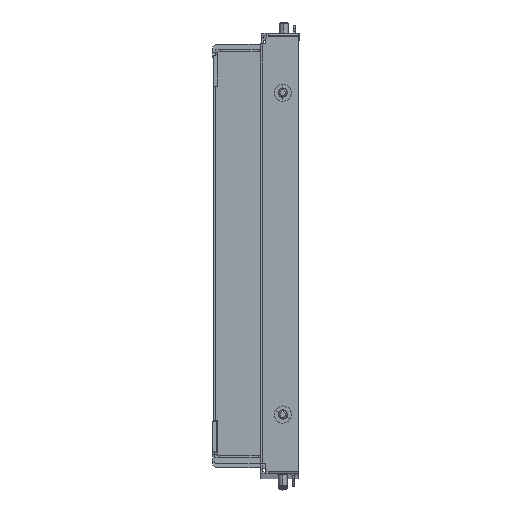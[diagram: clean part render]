
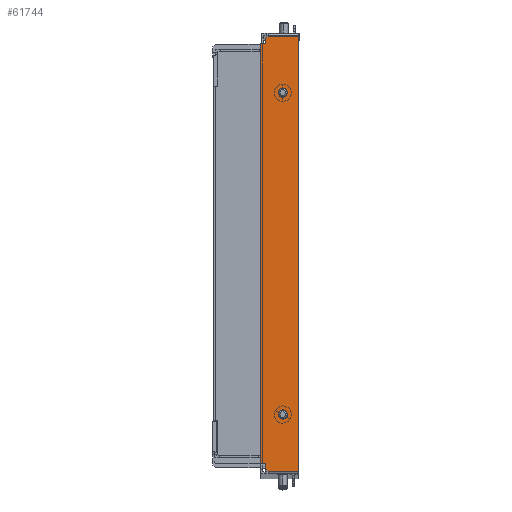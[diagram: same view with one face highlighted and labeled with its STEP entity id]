
A CAD part, top view. The second image highlights one B-rep face of the part: STEP entity #61744.
In plain terms, the highlighted planar face has unit normal (0, 0, 1).
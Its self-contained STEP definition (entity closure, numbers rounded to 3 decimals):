
#185 = EDGE_CURVE ( 'NONE', #23126, #48316, #44675, .T. ) ;
#637 = VECTOR ( 'NONE', #7521, 1000. ) ;
#1264 = VERTEX_POINT ( 'NONE', #19200 ) ;
#1365 = CARTESIAN_POINT ( 'NONE',  ( 28.807, -18.622, 2891.5 ) ) ;
#1578 = ORIENTED_EDGE ( 'NONE', *, *, #4382, .T. ) ;
#1788 = DIRECTION ( 'NONE',  ( -1., 0., 0. ) ) ;
#2186 = LINE ( 'NONE', #17424, #30979 ) ;
#2496 = VERTEX_POINT ( 'NONE', #66024 ) ;
#3572 = ORIENTED_EDGE ( 'NONE', *, *, #22690, .T. ) ;
#4382 = EDGE_CURVE ( 'NONE', #51287, #1264, #2186, .T. ) ;
#6065 = VECTOR ( 'NONE', #66566, 1000. ) ;
#6268 = VERTEX_POINT ( 'NONE', #1365 ) ;
#6734 = LINE ( 'NONE', #58643, #59887 ) ;
#6744 = DIRECTION ( 'NONE',  ( 0., -1., 0. ) ) ;
#6807 = CARTESIAN_POINT ( 'NONE',  ( 28.807, 285.378, 2891.5 ) ) ;
#7059 = AXIS2_PLACEMENT_3D ( 'NONE', #60982, #33676, #65151 ) ;
#7521 = DIRECTION ( 'NONE',  ( -1., 0., 0. ) ) ;
#8308 = VECTOR ( 'NONE', #21916, 1000. ) ;
#9734 = CARTESIAN_POINT ( 'NONE',  ( 7.507, 285.378, 2891.5 ) ) ;
#9918 = EDGE_CURVE ( 'NONE', #20998, #2496, #38656, .T. ) ;
#10076 = CARTESIAN_POINT ( 'NONE',  ( 5.507, 283.378, 2891.5 ) ) ;
#10864 = VERTEX_POINT ( 'NONE', #10076 ) ;
#13623 = CARTESIAN_POINT ( 'NONE',  ( 5.507, 285.378, 2891.5 ) ) ;
#14081 = CARTESIAN_POINT ( 'NONE',  ( 17.807, 245.878, 2891.5 ) ) ;
#14241 = DIRECTION ( 'NONE',  ( 0., 0., -1. ) ) ;
#14574 = ORIENTED_EDGE ( 'NONE', *, *, #54685, .F. ) ;
#15247 = ORIENTED_EDGE ( 'NONE', *, *, #16532, .T. ) ;
#16532 = EDGE_CURVE ( 'NONE', #2496, #20998, #54827, .T. ) ;
#16871 = EDGE_CURVE ( 'NONE', #59901, #1264, #21458, .T. ) ;
#17415 = CARTESIAN_POINT ( 'NONE',  ( 5.507, 279.878, 2891.5 ) ) ;
#17424 = CARTESIAN_POINT ( 'NONE',  ( 2.307, 285.378, 2891.5 ) ) ;
#17486 = CARTESIAN_POINT ( 'NONE',  ( 5.507, -18.622, 2891.5 ) ) ;
#18242 = CARTESIAN_POINT ( 'NONE',  ( 17.807, 20.878, 2891.5 ) ) ;
#18450 = EDGE_CURVE ( 'NONE', #48316, #23126, #66442, .T. ) ;
#18745 = ORIENTED_EDGE ( 'NONE', *, *, #29236, .T. ) ;
#19200 = CARTESIAN_POINT ( 'NONE',  ( 2.307, -13.122, 2891.5 ) ) ;
#19999 = VERTEX_POINT ( 'NONE', #17415 ) ;
#20243 = CARTESIAN_POINT ( 'NONE',  ( 2.307, 279.878, 2891.5 ) ) ;
#20998 = VERTEX_POINT ( 'NONE', #40789 ) ;
#21227 = LINE ( 'NONE', #63436, #8308 ) ;
#21458 = LINE ( 'NONE', #27691, #67054 ) ;
#21818 = LINE ( 'NONE', #64358, #26833 ) ;
#21916 = DIRECTION ( 'NONE',  ( -1., 0., 0. ) ) ;
#22056 = FACE_BOUND ( 'NONE', #29915, .T. ) ;
#22495 = ORIENTED_EDGE ( 'NONE', *, *, #48443, .T. ) ;
#22690 = EDGE_CURVE ( 'NONE', #10864, #19999, #65535, .T. ) ;
#22879 = CARTESIAN_POINT ( 'NONE',  ( 5.507, -13.122, 2891.5 ) ) ;
#23126 = VERTEX_POINT ( 'NONE', #56035 ) ;
#23537 = ORIENTED_EDGE ( 'NONE', *, *, #42949, .T. ) ;
#24020 = VERTEX_POINT ( 'NONE', #9734 ) ;
#26007 = VERTEX_POINT ( 'NONE', #39735 ) ;
#26833 = VECTOR ( 'NONE', #48468, 1000. ) ;
#27435 = VERTEX_POINT ( 'NONE', #44216 ) ;
#27691 = CARTESIAN_POINT ( 'NONE',  ( 5.507, -13.122, 2891.5 ) ) ;
#27819 = VECTOR ( 'NONE', #34446, 1000. ) ;
#28107 = LINE ( 'NONE', #49221, #42382 ) ;
#28243 = LINE ( 'NONE', #17486, #27819 ) ;
#29236 = EDGE_CURVE ( 'NONE', #56326, #24020, #21227, .T. ) ;
#29563 = ORIENTED_EDGE ( 'NONE', *, *, #18450, .T. ) ;
#29915 = EDGE_LOOP ( 'NONE', ( #15247, #42265 ) ) ;
#30840 = ORIENTED_EDGE ( 'NONE', *, *, #63242, .F. ) ;
#30979 = VECTOR ( 'NONE', #48937, 1000. ) ;
#33058 = CARTESIAN_POINT ( 'NONE',  ( 28.807, 285.378, 2891.5 ) ) ;
#33676 = DIRECTION ( 'NONE',  ( 0., 0., -1. ) ) ;
#34149 = FACE_OUTER_BOUND ( 'NONE', #48145, .T. ) ;
#34446 = DIRECTION ( 'NONE',  ( 0., -1., 0. ) ) ;
#35199 = DIRECTION ( 'NONE',  ( 0., 0., -1. ) ) ;
#38656 = CIRCLE ( 'NONE', #40894, 3.25 ) ;
#39030 = LINE ( 'NONE', #54925, #637 ) ;
#39735 = CARTESIAN_POINT ( 'NONE',  ( 7.507, -18.622, 2891.5 ) ) ;
#40581 = CARTESIAN_POINT ( 'NONE',  ( 17.807, 245.878, 2891.5 ) ) ;
#40789 = CARTESIAN_POINT ( 'NONE',  ( 21.057, 245.878, 2891.5 ) ) ;
#40894 = AXIS2_PLACEMENT_3D ( 'NONE', #14081, #35199, #66675 ) ;
#41023 = AXIS2_PLACEMENT_3D ( 'NONE', #18242, #44920, #65656 ) ;
#42265 = ORIENTED_EDGE ( 'NONE', *, *, #9918, .T. ) ;
#42304 = ORIENTED_EDGE ( 'NONE', *, *, #16871, .F. ) ;
#42382 = VECTOR ( 'NONE', #1788, 1000. ) ;
#42949 = EDGE_CURVE ( 'NONE', #24020, #10864, #6734, .T. ) ;
#43164 = EDGE_LOOP ( 'NONE', ( #29563, #47516 ) ) ;
#43172 = PLANE ( 'NONE',  #44108 ) ;
#43648 = EDGE_CURVE ( 'NONE', #27435, #26007, #21818, .T. ) ;
#44108 = AXIS2_PLACEMENT_3D ( 'NONE', #6807, #44544, #64250 ) ;
#44216 = CARTESIAN_POINT ( 'NONE',  ( 5.507, -16.622, 2891.5 ) ) ;
#44544 = DIRECTION ( 'NONE',  ( 0., 0., 1. ) ) ;
#44675 = CIRCLE ( 'NONE', #7059, 3.25 ) ;
#44920 = DIRECTION ( 'NONE',  ( 0., 0., -1. ) ) ;
#47516 = ORIENTED_EDGE ( 'NONE', *, *, #185, .T. ) ;
#48145 = EDGE_LOOP ( 'NONE', ( #54662, #60619, #14574, #30840, #18745, #23537, #3572, #22495, #1578, #42304 ) ) ;
#48316 = VERTEX_POINT ( 'NONE', #53207 ) ;
#48443 = EDGE_CURVE ( 'NONE', #19999, #51287, #39030, .T. ) ;
#48468 = DIRECTION ( 'NONE',  ( 0.707, -0.707, 0. ) ) ;
#48794 = DIRECTION ( 'NONE',  ( -1., 0., 0. ) ) ;
#48937 = DIRECTION ( 'NONE',  ( 0., -1., 0. ) ) ;
#49221 = CARTESIAN_POINT ( 'NONE',  ( 28.807, -18.622, 2891.5 ) ) ;
#51278 = DIRECTION ( 'NONE',  ( -1., 0., 0. ) ) ;
#51287 = VERTEX_POINT ( 'NONE', #20243 ) ;
#53207 = CARTESIAN_POINT ( 'NONE',  ( 14.557, 20.878, 2891.5 ) ) ;
#54662 = ORIENTED_EDGE ( 'NONE', *, *, #67266, .T. ) ;
#54685 = EDGE_CURVE ( 'NONE', #6268, #26007, #28107, .T. ) ;
#54827 = CIRCLE ( 'NONE', #63653, 3.25 ) ;
#54925 = CARTESIAN_POINT ( 'NONE',  ( 28.807, 279.878, 2891.5 ) ) ;
#55182 = LINE ( 'NONE', #33058, #60681 ) ;
#55706 = CARTESIAN_POINT ( 'NONE',  ( 28.807, 285.378, 2891.5 ) ) ;
#56035 = CARTESIAN_POINT ( 'NONE',  ( 21.057, 20.878, 2891.5 ) ) ;
#56326 = VERTEX_POINT ( 'NONE', #55706 ) ;
#58643 = CARTESIAN_POINT ( 'NONE',  ( 18.157, 296.028, 2891.5 ) ) ;
#58987 = DIRECTION ( 'NONE',  ( -0.707, -0.707, 0. ) ) ;
#59887 = VECTOR ( 'NONE', #58987, 1000. ) ;
#59901 = VERTEX_POINT ( 'NONE', #22879 ) ;
#60096 = FACE_BOUND ( 'NONE', #43164, .T. ) ;
#60619 = ORIENTED_EDGE ( 'NONE', *, *, #43648, .T. ) ;
#60681 = VECTOR ( 'NONE', #6744, 1000. ) ;
#60982 = CARTESIAN_POINT ( 'NONE',  ( 17.807, 20.878, 2891.5 ) ) ;
#61744 = ADVANCED_FACE ( 'NONE', ( #22056, #60096, #34149 ), #43172, .T. ) ;
#63242 = EDGE_CURVE ( 'NONE', #56326, #6268, #55182, .T. ) ;
#63436 = CARTESIAN_POINT ( 'NONE',  ( 28.807, 285.378, 2891.5 ) ) ;
#63653 = AXIS2_PLACEMENT_3D ( 'NONE', #40581, #14241, #51278 ) ;
#64250 = DIRECTION ( 'NONE',  ( 1., 0., 0. ) ) ;
#64358 = CARTESIAN_POINT ( 'NONE',  ( -133.843, 122.728, 2891.5 ) ) ;
#65151 = DIRECTION ( 'NONE',  ( -1., 0., 0. ) ) ;
#65535 = LINE ( 'NONE', #13623, #6065 ) ;
#65656 = DIRECTION ( 'NONE',  ( -1., 0., 0. ) ) ;
#66024 = CARTESIAN_POINT ( 'NONE',  ( 14.557, 245.878, 2891.5 ) ) ;
#66442 = CIRCLE ( 'NONE', #41023, 3.25 ) ;
#66566 = DIRECTION ( 'NONE',  ( 0., -1., 0. ) ) ;
#66675 = DIRECTION ( 'NONE',  ( -1., 0., 0. ) ) ;
#67054 = VECTOR ( 'NONE', #48794, 1000. ) ;
#67266 = EDGE_CURVE ( 'NONE', #59901, #27435, #28243, .T. ) ;
